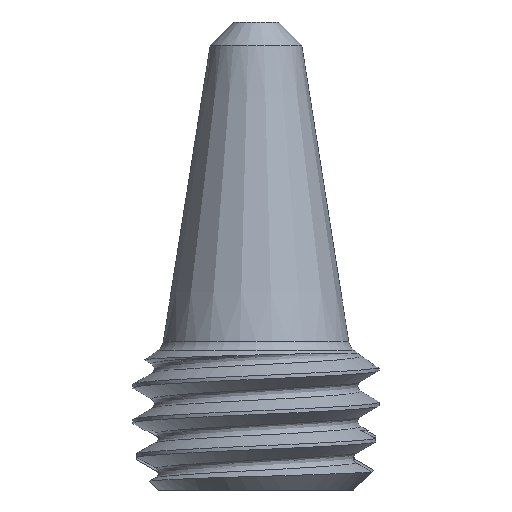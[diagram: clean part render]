
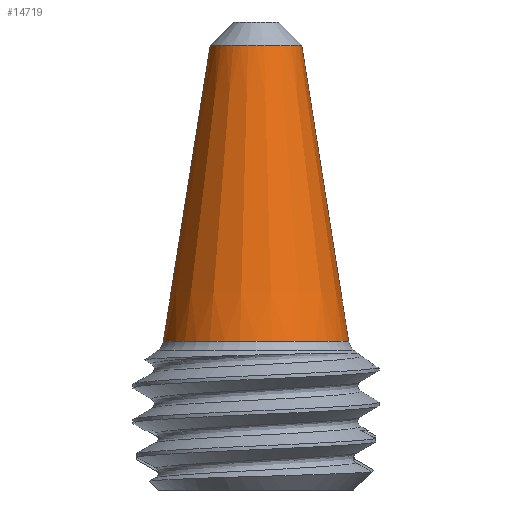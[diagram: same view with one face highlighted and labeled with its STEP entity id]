
A CAD part, front view. The second image highlights one B-rep face of the part: STEP entity #14719.
In plain terms, the highlighted conical face has half-angle 9 degrees and reference radius 2.388 mm.
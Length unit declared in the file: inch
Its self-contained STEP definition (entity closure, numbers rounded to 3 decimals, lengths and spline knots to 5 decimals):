
#67 = DIRECTION ( 'NONE',  ( 1., 0., 0. ) ) ;
#1688 = DIRECTION ( 'NONE',  ( 0., 0., 1. ) ) ;
#2911 = EDGE_CURVE ( 'NONE', #18565, #14912, #21194, .T. ) ;
#4135 = CARTESIAN_POINT ( 'NONE',  ( 0.09403, 0., 0.15114 ) ) ;
#4156 = VERTEX_POINT ( 'NONE', #20042 ) ;
#4941 = ORIENTED_EDGE ( 'NONE', *, *, #2911, .T. ) ;
#5036 = VECTOR ( 'NONE', #14044, 39.37008 ) ;
#5069 = CARTESIAN_POINT ( 'NONE',  ( 0., 0., 0.15114 ) ) ;
#5364 = DIRECTION ( 'NONE',  ( -0.156, 0., -0.988 ) ) ;
#5872 = AXIS2_PLACEMENT_3D ( 'NONE', #15660, #7342, #13811 ) ;
#6502 = CONICAL_SURFACE ( 'NONE', #15531, 0.09403, 0.157 ) ;
#7284 = EDGE_CURVE ( 'NONE', #10098, #14912, #19310, .T. ) ;
#7342 = DIRECTION ( 'NONE',  ( 0., 0., 1. ) ) ;
#7896 = AXIS2_PLACEMENT_3D ( 'NONE', #5069, #1688, #67 ) ;
#9892 = EDGE_LOOP ( 'NONE', ( #16655, #20048, #15834, #4941 ) ) ;
#10098 = VERTEX_POINT ( 'NONE', #15939 ) ;
#10585 = CARTESIAN_POINT ( 'NONE',  ( 0., 0., 0.15114 ) ) ;
#11340 = DIRECTION ( 'NONE',  ( -1., 0., 0. ) ) ;
#12354 = CARTESIAN_POINT ( 'NONE',  ( -0.09403, 0., 0.15114 ) ) ;
#12395 = CARTESIAN_POINT ( 'NONE',  ( 0.09403, 0., 0.15114 ) ) ;
#12494 = CIRCLE ( 'NONE', #5872, 0.0465 ) ;
#13811 = DIRECTION ( 'NONE',  ( 1., 0., 0. ) ) ;
#14044 = DIRECTION ( 'NONE',  ( 0.156, 0., -0.988 ) ) ;
#14719 = ADVANCED_FACE ( 'NONE', ( #15948 ), #6502, .T. ) ;
#14912 = VERTEX_POINT ( 'NONE', #4135 ) ;
#15531 = AXIS2_PLACEMENT_3D ( 'NONE', #10585, #16173, #11340 ) ;
#15660 = CARTESIAN_POINT ( 'NONE',  ( 0., 0., 0.45124 ) ) ;
#15834 = ORIENTED_EDGE ( 'NONE', *, *, #20509, .T. ) ;
#15939 = CARTESIAN_POINT ( 'NONE',  ( 0.0465, 0., 0.45124 ) ) ;
#15948 = FACE_OUTER_BOUND ( 'NONE', #9892, .T. ) ;
#16173 = DIRECTION ( 'NONE',  ( 0., 0., -1. ) ) ;
#16655 = ORIENTED_EDGE ( 'NONE', *, *, #7284, .F. ) ;
#18565 = VERTEX_POINT ( 'NONE', #12354 ) ;
#18629 = LINE ( 'NONE', #20362, #19493 ) ;
#19310 = LINE ( 'NONE', #12395, #5036 ) ;
#19493 = VECTOR ( 'NONE', #5364, 39.37008 ) ;
#20001 = EDGE_CURVE ( 'NONE', #4156, #10098, #12494, .T. ) ;
#20042 = CARTESIAN_POINT ( 'NONE',  ( -0.0465, 0., 0.45124 ) ) ;
#20048 = ORIENTED_EDGE ( 'NONE', *, *, #20001, .F. ) ;
#20362 = CARTESIAN_POINT ( 'NONE',  ( -0.09403, 0., 0.15114 ) ) ;
#20509 = EDGE_CURVE ( 'NONE', #4156, #18565, #18629, .T. ) ;
#21194 = CIRCLE ( 'NONE', #7896, 0.09403 ) ;
